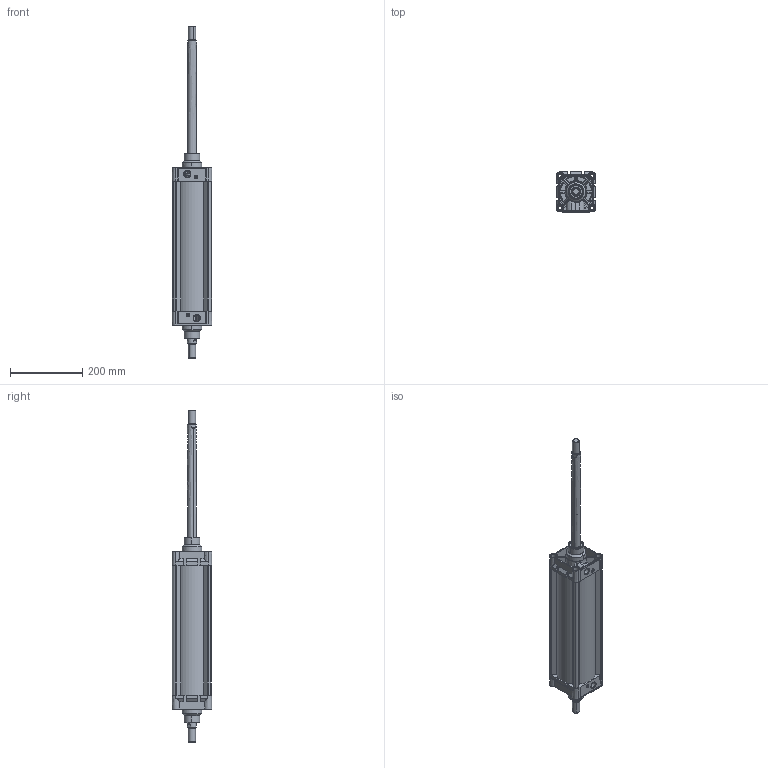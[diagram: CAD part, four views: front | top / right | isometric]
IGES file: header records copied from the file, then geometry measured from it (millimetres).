
Start section: SolidWorks IGES file using analytic representation for surfaces
Global section: file name: D:\ARICA 3D 禽Z軲LER\3D IGES\MDNC 禽FT M軱L輁MDNC100\MDNC100X300CIFTMILLI-CYLINDER.IGS; native system: SolidWorks 2013; preprocessor: SolidWorks 2013; author: user; date: 150326.101143; units: millimetre
Bounding box: 110.06 x 110.35 x 920 mm (x, y, z)
Surface area: 651871.3 mm2 (no closed solid volume)
Topology: 0 solids, 0 shells, 1104 faces, 18658 edges, 18646 vertices
Faces by surface type: revolution 639, bspline 465
